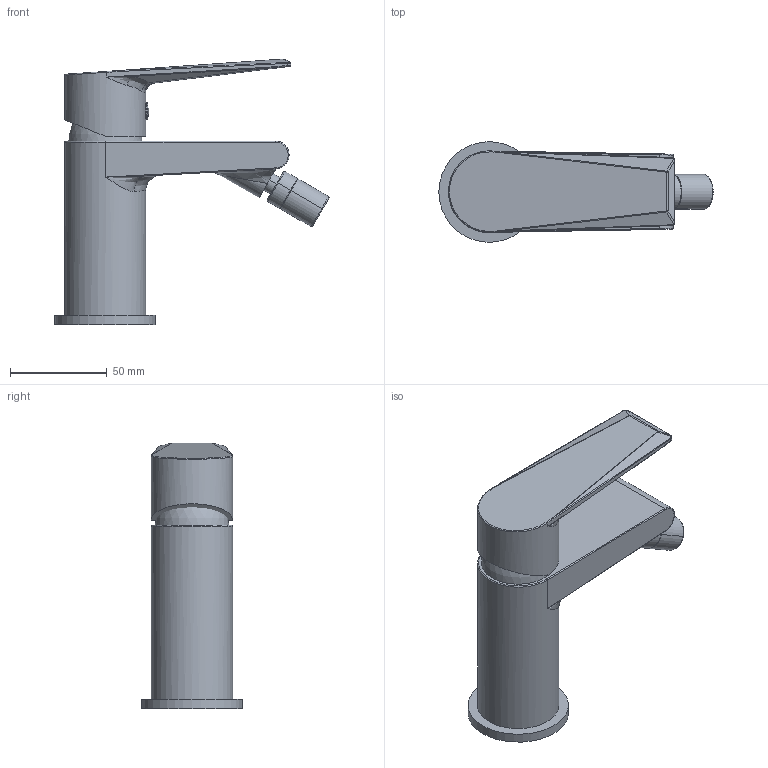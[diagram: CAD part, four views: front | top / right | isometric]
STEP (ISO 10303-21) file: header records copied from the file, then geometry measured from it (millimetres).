
FILE_DESCRIPTION(/* description */ (''),/* implementation_level */ '2;1');
FILE_NAME(/* name */ '妇洗.stp',/* time_stamp */ '2024-03-01T22:26:25+08:00',/* author */ (''),/* organization */ (''),/* preprocessor_version */ 'ST-DEVELOPER v16',/* originating_system */ 'SIEMENS PLM Software NX 10.0',/* authorisation */ '');
FILE_SCHEMA (('CONFIG_CONTROL_DESIGN'));
Length unit declared in the file: millimetre
Products named in the file (1): 妇洗
Bounding box: 141.7 x 52 x 137.37 mm (x, y, z)
Volume: 267074.5 mm3; surface area: 50521.2 mm2
Topology: 7 solids, 7 shells, 711 faces, 1842 edges, 1194 vertices
Faces by surface type: plane 528, cylinder 95, bspline 43, cone 29, torus 10, sphere 6
Full cylindrical faces by diameter (mm): 8.9 x1, 14.5 x1, 42 x2, 52 x1
Entity records: 23091 total; most frequent: CARTESIAN_POINT 5758, ORIENTED_EDGE 3648, DIRECTION 3408, EDGE_CURVE 1824, LINE 1394, VECTOR 1394, VERTEX_POINT 1191, AXIS2_PLACEMENT_3D 1007
